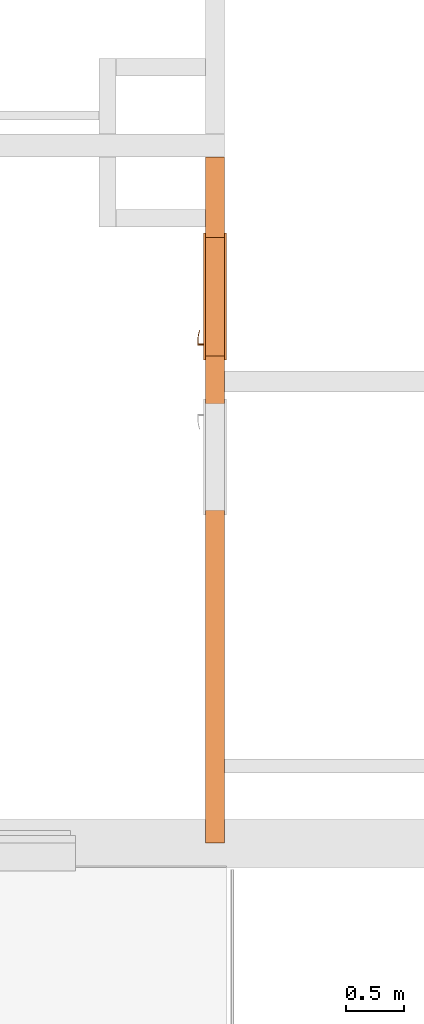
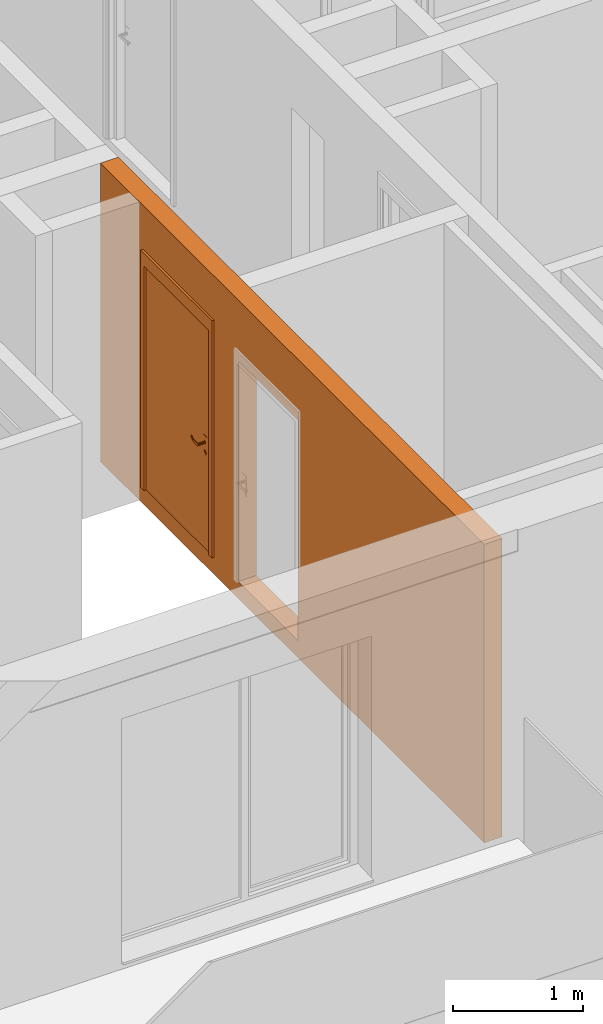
# One storey, part 8 of 64: 2 proxies, 2 openings.
"""IFC2X3 building model written with IfcOpenShell, lengths in millimetres."""

from ifc_helpers import new_model, entity, si_unit, converted_unit, derived_unit, money_unit, direction, frame, origin_with_axes, origin_2d_with_axis, place, context, subcontext, project, spatial, rectangle, extrude, open_shell, faceted_brep, surface_model, source, transform, mapped, material, type_object, element, fill, save


model = new_model("IFC2X3")

# Units and contexts
model_context = context("Model", 3, precision=0.01, world=origin_with_axes(), true_north=direction((0.34421633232, 0.938890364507)))
body_context = subcontext(model_context, "Body", "Model", "MODEL_VIEW")
ifc_project = project(units=[si_unit("LENGTHUNIT", "METRE", prefix="MILLI"), si_unit("AREAUNIT", "SQUARE_METRE"), si_unit("VOLUMEUNIT", "CUBIC_METRE"), converted_unit("PLANEANGLEUNIT", "DEGREE", entity("IfcPlaneAngleMeasure", 0.0174532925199), si_unit("PLANEANGLEUNIT", "RADIAN"), dimensions=[0, 0, 0, 0, 0, 0, 0]), si_unit("SOLIDANGLEUNIT", "STERADIAN"), money_unit("USD"), converted_unit("TIMEUNIT", "Year", entity("IfcTimeMeasure", 31556926.0), si_unit("TIMEUNIT", "SECOND"), dimensions=[0, 0, 1, 0, 0, 0, 0]), si_unit("MASSUNIT", "GRAM", prefix="KILO"), si_unit("THERMODYNAMICTEMPERATUREUNIT", "DEGREE_CELSIUS"), si_unit("LUMINOUSINTENSITYUNIT", "LUMEN"), si_unit("ENERGYUNIT", "JOULE", prefix="MEGA"), derived_unit("THERMALCONDUCTANCEUNIT", [(si_unit("POWERUNIT", "WATT"), 1), (si_unit("LENGTHUNIT", "METRE"), -1), (si_unit("THERMODYNAMICTEMPERATUREUNIT", "KELVIN"), -1)]), derived_unit("SPECIFICHEATCAPACITYUNIT", [(si_unit("ENERGYUNIT", "JOULE"), 1), (si_unit("MASSUNIT", "GRAM", prefix="KILO"), -1), (si_unit("THERMODYNAMICTEMPERATUREUNIT", "KELVIN"), -1)]), derived_unit("MASSDENSITYUNIT", [(si_unit("MASSUNIT", "GRAM", prefix="KILO"), 1), (si_unit("VOLUMEUNIT", "CUBIC_METRE"), -1)])], contexts=[model_context])

# Site, building, storey
site_placement = place(None, origin_with_axes())
site = spatial("IfcSite", under=ifc_project, at=site_placement, Name="USTRONIE MORSKIE", CompositionType="ELEMENT")
building_placement = place(site_placement, origin_with_axes())
building = spatial("IfcBuilding", under=site, at=building_placement, Name="Budynek", CompositionType="ELEMENT")
storey_placement = place(building_placement, frame((0.0, 0.0, 7000.0), z_axis=(0.0, 0.0, 1.0), x_axis=(1.0, 0.0, 0.0)))
storey = spatial("IfcBuildingStorey", under=building, at=storey_placement, Name="PIĘTRO 2", CompositionType="ELEMENT", Elevation=7000.0)

# Proxies, openings
ifc_material = material(Name="Beton konstrukcyjny B25")
building_element_proxy_type_1 = type_object("IfcBuildingElementProxyType", Name="Beton konstrukcyjny B25 160", PredefinedType="NOTDEFINED")
proxy_1_placement = place(storey_placement, frame((357517.920919, 715101.199036, -160.0), z_axis=(0.0, 0.0, 1.0), x_axis=(0.0, -1.0, 0.0)))
proxy_1 = element("IfcBuildingElementProxy", 1, at=proxy_1_placement, inside=storey, type_object=building_element_proxy_type_1, material=ifc_material, Name="SW-01", context=body_context, shape_type="Brep", body=[
    faceted_brep([(6000.0, 80.0, 0.0), (100.0, 80.0, 0.0), (100.0, 80.0, 2800.0), (6000.0, 80.0, 2800.0), (6000.0, -80.0, 0.0), (100.0, -80.0, 0.0), (100.0, -80.0, 2800.0), (6000.0, -80.0, 2800.0)], [[[0, 1, 2, 3]], [[4, 5, 1, 0]], [[5, 6, 2, 1]], [[3, 2, 6, 7]], [[4, 0, 3, 7]], [[7, 6, 5, 4]]]),
])
opening_1_placement = place(proxy_1_placement, frame((1300.00000044, 0.0, 160.0), z_axis=(0.0, 0.0, 1.0), x_axis=(1.0, 0.0, 0.0)))
opening_1 = element("IfcOpeningElement", 2, at=opening_1_placement, cuts=proxy_1, Name="Dw.1", context=body_context, shape_type="SweptSolid", body=[
    extrude(rectangle(XDim=1020.0, YDim=2120.0, at=origin_2d_with_axis()), frame((0.0, 160.0, 1060.0), z_axis=(0.0, -1.0, 0.0), x_axis=(-1.0, 0.0, 0.0)), (0.0, 0.0, 1.0), 480.0),
    extrude(rectangle(XDim=1094.0, YDim=2227.0, at=origin_2d_with_axis()), frame((0.0, 80.0, 1113.5), z_axis=(0.0, -1.0, 0.0), x_axis=(-1.0, 0.0, 0.0)), (0.0, 0.0, -1.0), 160.0),
    extrude(rectangle(XDim=1094.0, YDim=2227.0, at=origin_2d_with_axis()), frame((0.0, -80.0, 1113.5), z_axis=(0.0, 1.0, 0.0), x_axis=(-1.0, 0.0, 0.0)), (0.0, 0.0, -1.0), 160.0),
])
opening_2_placement = place(proxy_1_placement, frame((2680.00000044, 0.0, 160.0), z_axis=(0.0, 0.0, 1.0), x_axis=(1.0, 0.0, 0.0)))
element("IfcOpeningElement", 3, at=opening_2_placement, cuts=proxy_1, Name="Dw.4", context=body_context, shape_type="SweptSolid", body=[
    extrude(rectangle(XDim=920.0, YDim=2070.0, at=origin_2d_with_axis()), frame((0.0, 160.0, 1035.0), z_axis=(0.0, 1.0, 0.0), x_axis=(1.0, 0.0, 0.0)), (0.0, 0.0, -1.0), 480.0),
    extrude(rectangle(XDim=994.0, YDim=2177.0, at=origin_2d_with_axis()), frame((0.0, 80.0, 1088.5), z_axis=(0.0, 1.0, 0.0), x_axis=(1.0, 0.0, 0.0)), (0.0, 0.0, 1.0), 160.0),
    extrude(rectangle(XDim=994.0, YDim=2177.0, at=origin_2d_with_axis()), frame((0.0, -80.0, 1088.5), z_axis=(0.0, -1.0, 0.0), x_axis=(1.0, 0.0, 0.0)), (0.0, 0.0, 1.0), 160.0),
])
building_element_proxy_type_2 = type_object("IfcBuildingElementProxyType", Name="Drzwi 23", PredefinedType="NOTDEFINED")
shared_shape = source(origin_with_axes(), body_context, "Body", "SurfaceModel", [
    faceted_brep([(-510.0, -115.0, 0.0), (-485.0, -115.0, 0.0), (-485.0, -160.0, 0.0), (-510.0, -160.0, 0.0), (-510.0, -115.0, 2120.0), (-485.0, -115.0, 2095.0), (-485.0, -160.0, 2095.0), (-510.0, -160.0, 2120.0)], [[[0, 1, 2, 3]], [[0, 4, 5, 1]], [[1, 5, 6, 2]], [[3, 2, 6, 7]], [[4, 0, 3, 7]], [[5, 4, 7, 6]]]),
    faceted_brep([(510.0, -115.0, 2120.0), (485.0, -115.0, 2095.0), (485.0, -160.0, 2095.0), (510.0, -160.0, 2120.0), (510.0, -115.0, 0.0), (485.0, -115.0, 0.0), (485.0, -160.0, 0.0), (510.0, -160.0, 0.0)], [[[0, 1, 2, 3]], [[0, 4, 5, 1]], [[1, 5, 6, 2]], [[3, 2, 6, 7]], [[4, 0, 3, 7]], [[5, 4, 7, 6]]]),
    faceted_brep([(-485.0, -115.0, 2095.0), (485.0, -115.0, 2095.0), (485.0, -160.0, 2095.0), (-485.0, -160.0, 2095.0), (-510.0, -115.0, 2120.0), (510.0, -115.0, 2120.0), (510.0, -160.0, 2120.0), (-510.0, -160.0, 2120.0)], [[[0, 1, 2, 3]], [[0, 4, 5, 1]], [[1, 5, 6, 2]], [[3, 2, 6, 7]], [[4, 0, 3, 7]], [[5, 4, 7, 6]]]),
    faceted_brep([(-547.0, -179.0, 0.0), (-547.0, -160.0, 0.0), (-497.0, -160.0, 0.0), (-497.0, -179.0, 0.0), (-547.0, -179.0, 2227.0), (-547.0, -160.0, 2227.0), (-497.0, -160.0, 2107.0), (-497.0, -179.0, 2107.0)], [[[0, 1, 2, 3]], [[4, 5, 1, 0]], [[1, 5, 6, 2]], [[3, 2, 6, 7]], [[0, 3, 7, 4]], [[7, 6, 5, 4]]]),
    faceted_brep([(547.0, -179.0, 2227.0), (547.0, -160.0, 2227.0), (497.0, -160.0, 2107.0), (497.0, -179.0, 2107.0), (547.0, -179.0, 0.0), (547.0, -160.0, 0.0), (497.0, -160.0, 0.0), (497.0, -179.0, 0.0)], [[[0, 1, 2, 3]], [[4, 5, 1, 0]], [[1, 5, 6, 2]], [[3, 2, 6, 7]], [[0, 3, 7, 4]], [[7, 6, 5, 4]]]),
    faceted_brep([(-547.0, -179.0, 2227.0), (-547.0, -160.0, 2227.0), (-497.0, -160.0, 2107.0), (-497.0, -179.0, 2107.0), (547.0, -179.0, 2227.0), (547.0, -160.0, 2227.0), (497.0, -160.0, 2107.0), (497.0, -179.0, 2107.0)], [[[0, 1, 2, 3]], [[4, 5, 1, 0]], [[1, 5, 6, 2]], [[3, 2, 6, 7]], [[0, 3, 7, 4]], [[7, 6, 5, 4]]]),
    faceted_brep([(-547.0, 19.0, 0.0), (-497.0, 19.0, 0.0), (-497.0, 0.0, 0.0), (-547.0, 0.0, 0.0), (-547.0, 19.0, 2227.0), (-497.0, 19.0, 2107.0), (-497.0, 0.0, 2107.0), (-547.0, 0.0, 2227.0)], [[[0, 1, 2, 3]], [[0, 4, 5, 1]], [[1, 5, 6, 2]], [[3, 2, 6, 7]], [[4, 0, 3, 7]], [[5, 4, 7, 6]]]),
    faceted_brep([(547.0, 19.0, 2227.0), (497.0, 19.0, 2107.0), (497.0, 0.0, 2107.0), (547.0, 0.0, 2227.0), (547.0, 19.0, 0.0), (497.0, 19.0, 0.0), (497.0, 0.0, 0.0), (547.0, 0.0, 0.0)], [[[0, 1, 2, 3]], [[0, 4, 5, 1]], [[1, 5, 6, 2]], [[3, 2, 6, 7]], [[4, 0, 3, 7]], [[5, 4, 7, 6]]]),
    faceted_brep([(-547.0, 19.0, 2227.0), (-497.0, 19.0, 2107.0), (-497.0, 0.0, 2107.0), (-547.0, 0.0, 2227.0), (547.0, 19.0, 2227.0), (497.0, 19.0, 2107.0), (497.0, 0.0, 2107.0), (547.0, 0.0, 2227.0)], [[[0, 1, 2, 3]], [[0, 4, 5, 1]], [[1, 5, 6, 2]], [[3, 2, 6, 7]], [[4, 0, 3, 7]], [[5, 4, 7, 6]]]),
    faceted_brep([(-450.0, -40.0, 0.0), (-450.0, -40.0, 2050.0), (-450.0, -115.0, 2050.0), (-450.0, -115.0, 0.0), (-462.0, -40.0, 2050.0), (-462.0, -40.0, 0.0), (-462.0, 0.0, 2050.0), (-510.0, 0.0, 2050.0), (-510.0, -115.0, 2050.0), (-510.0, -115.0, 0.0), (-510.0, 0.0, 0.0), (-462.0, 0.0, 0.0)], [[[0, 1, 2, 3]], [[4, 1, 0, 5]], [[4, 6, 7, 8, 2, 1]], [[3, 2, 8, 9]], [[5, 0, 3, 9, 10, 11]], [[6, 4, 5, 11]], [[6, 11, 10, 7]], [[10, 9, 8, 7]]]),
    faceted_brep([(462.0, -40.0, 2050.0), (450.0, -40.0, 2050.0), (450.0, -115.0, 2050.0), (510.0, -115.0, 2050.0), (510.0, 0.0, 2050.0), (462.0, 0.0, 2050.0), (462.0, -40.0, 0.0), (450.0, -40.0, 0.0), (450.0, -115.0, 0.0), (510.0, -115.0, 0.0), (510.0, 0.0, 0.0), (462.0, 0.0, 0.0)], [[[0, 1, 2, 3, 4, 5]], [[1, 0, 6, 7]], [[1, 7, 8, 2]], [[3, 2, 8, 9]], [[4, 3, 9, 10]], [[11, 5, 4, 10]], [[0, 5, 11, 6]], [[6, 11, 10, 9, 8, 7]]]),
    faceted_brep([(-462.0, 0.0, 2062.0), (-462.0, 0.0, 2050.0), (-510.0, 0.0, 2050.0), (-510.0, 0.0, 2120.0), (510.0, 0.0, 2120.0), (510.0, 0.0, 2050.0), (462.0, 0.0, 2050.0), (462.0, 0.0, 2062.0), (-462.0, -40.0, 2062.0), (-462.0, -40.0, 2050.0), (-450.0, -40.0, 2050.0), (-450.0, -115.0, 2050.0), (-510.0, -115.0, 2050.0), (-510.0, -115.0, 2120.0), (510.0, -115.0, 2120.0), (510.0, -115.0, 2050.0), (462.0, -40.0, 2050.0), (450.0, -115.0, 2050.0), (450.0, -40.0, 2050.0), (462.0, -40.0, 2062.0)], [[[0, 1, 2, 3, 4, 5, 6, 7]], [[1, 0, 8, 9]], [[9, 10, 11, 12, 2, 1]], [[2, 12, 13, 3]], [[3, 13, 14, 4]], [[4, 14, 15, 5]], [[16, 6, 5, 15, 17, 18]], [[7, 6, 16, 19]], [[0, 7, 19, 8]], [[16, 18, 10, 9, 8, 19]], [[10, 18, 17, 11]], [[17, 15, 14, 13, 12, 11]]]),
    faceted_brep([(-440.5, -40.0, 1060.0), (-440.5, -43.0, 1060.0), (-383.5, -43.0, 1060.0), (-383.5, -40.0, 1060.0), (-440.5, -40.0, 870.0), (-440.5, -43.0, 870.0), (-383.5, -43.0, 870.0), (-383.5, -40.0, 870.0)], [[[0, 1, 2, 3]], [[4, 5, 1, 0]], [[1, 5, 6, 2]], [[3, 2, 6, 7]], [[0, 3, 7, 4]], [[7, 6, 5, 4]]]),
    faceted_brep([(-412.0, -104.0, 990.0), (-412.0, -111.0, 990.0), (-417.0, -111.0, 991.339745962), (-417.0, -104.0, 991.339745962), (-387.0, -104.0, 990.0), (-387.0, -111.0, 990.0), (-387.0, -111.0, 1010.0), (-412.0, -111.0, 1010.0), (-417.0, -111.0, 1008.66025404), (-420.660254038, -111.0, 1005.0), (-422.0, -111.0, 1000.0), (-420.660254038, -111.0, 995.0), (-420.660254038, -104.0, 995.0), (-422.0, -104.0, 1000.0), (-420.660254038, -104.0, 1005.0), (-417.0, -104.0, 1008.66025404), (-412.0, -104.0, 1010.0), (-387.0, -104.0, 1010.0)], [[[0, 1, 2, 3]], [[4, 5, 1, 0]], [[1, 5, 6, 7, 8, 9, 10, 11, 2]], [[3, 2, 11, 12]], [[0, 3, 12, 13, 14, 15, 16, 17, 4]], [[17, 6, 5, 4]], [[16, 7, 6, 17]], [[15, 8, 7, 16]], [[14, 9, 8, 15]], [[13, 10, 9, 14]], [[12, 11, 10, 13]]]),
    surface_model("IfcShellBasedSurfaceModel", [(-387.0, -104.0, 1010.0), (-373.596090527, -111.0, 1009.60730092), (-373.901717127, -104.0, 1009.60730092), (-387.0, -111.0, 1010.0), (-346.890283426, -108.663544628, 1008.82190275), (-373.901717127, -104.0, 990.392699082), (-387.0, -104.0, 990.0), (-387.0, -111.0, 990.0), (-373.596090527, -111.0, 990.392699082), (-346.890283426, -108.663544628, 991.178097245), (-347.804837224, -101.716818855, 1008.82190275), (-347.804837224, -101.716818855, 991.178097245), (-320.489735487, -104.008415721, 991.963495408), (-320.489735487, -104.008415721, 1008.03650459), (-322.006256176, -97.1678329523, 1008.03650459), (-322.006256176, -97.1678329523, 991.963495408), (-294.59537082, -97.0700416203, 992.748893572), (-294.59537082, -97.0700416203, 1007.25110643), (-296.702316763, -90.3876628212, 1007.25110643), (-296.702316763, -90.3876628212, 992.748893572), (-286.538795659, -94.1376880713, 993.0), (-286.538795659, -94.1376880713, 1007.0), (-288.829442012, -87.5221707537, 1007.0), (-288.829442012, -87.5221707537, 993.0)], [open_shell([[[0, 1, 2]], [[0, 3, 1]], [[2, 1, 4]], [[0, 2, 5, 6]], [[3, 7, 8, 1]], [[1, 8, 9, 4]], [[2, 4, 10]], [[2, 10, 11, 5]], [[5, 7, 6]], [[5, 8, 7]], [[11, 9, 8]], [[4, 9, 12, 13]], [[10, 4, 13]], [[10, 14, 15, 11]], [[11, 8, 5]], [[15, 9, 11]], [[15, 12, 9]], [[13, 12, 16, 17]], [[10, 13, 14]], [[14, 18, 19, 15]], [[19, 12, 15]], [[19, 16, 12]], [[17, 16, 20, 21]], [[14, 13, 17]], [[14, 17, 18]], [[18, 22, 23, 19]], [[23, 16, 19]], [[23, 20, 16]], [[22, 21, 20, 23]], [[18, 17, 21]], [[18, 21, 22]]])]),
    faceted_brep([(-401.607695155, -53.0, 994.0), (-400.741669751, -43.0, 993.5), (-399.0, -43.0, 1000.0), (-400.0, -53.0, 1000.0), (-406.0, -53.0, 989.607695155), (-405.5, -43.0, 988.741669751), (-412.0, -43.0, 987.0), (-418.5, -43.0, 988.741669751), (-423.258330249, -43.0, 993.5), (-425.0, -43.0, 1000.0), (-423.258330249, -43.0, 1006.5), (-418.5, -43.0, 1011.25833025), (-412.0, -43.0, 1013.0), (-405.5, -43.0, 1011.25833025), (-400.741669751, -43.0, 1006.5), (-401.607695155, -53.0, 1006.0), (-406.0, -53.0, 1010.39230485), (-412.0, -53.0, 1012.0), (-418.0, -53.0, 1010.39230485), (-422.392304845, -53.0, 1006.0), (-424.0, -53.0, 1000.0), (-422.392304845, -53.0, 994.0), (-418.0, -53.0, 989.607695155), (-412.0, -53.0, 988.0)], [[[0, 1, 2, 3]], [[4, 5, 1, 0]], [[2, 1, 5, 6, 7, 8, 9, 10, 11, 12, 13, 14]], [[3, 2, 14, 15]], [[3, 15, 16, 17, 18, 19, 20, 21, 22, 23, 4, 0]], [[23, 6, 5, 4]], [[22, 7, 6, 23]], [[21, 8, 7, 22]], [[20, 9, 8, 21]], [[19, 10, 9, 20]], [[18, 11, 10, 19]], [[17, 12, 11, 18]], [[16, 13, 12, 17]], [[15, 14, 13, 16]]]),
    faceted_brep([(-394.679491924, -47.0, 895.0), (-392.947441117, -43.0, 894.0), (-390.0, -43.0, 905.0), (-392.0, -47.0, 905.0), (-402.0, -47.0, 887.679491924), (-401.0, -43.0, 885.947441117), (-412.0, -43.0, 883.0), (-423.0, -43.0, 885.947441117), (-431.052558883, -43.0, 894.0), (-434.0, -43.0, 905.0), (-431.052558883, -43.0, 916.0), (-423.0, -43.0, 924.052558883), (-412.0, -43.0, 927.0), (-401.0, -43.0, 924.052558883), (-392.947441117, -43.0, 916.0), (-394.679491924, -47.0, 915.0), (-402.0, -47.0, 922.320508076), (-412.0, -47.0, 925.0), (-422.0, -47.0, 922.320508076), (-429.320508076, -47.0, 915.0), (-432.0, -47.0, 905.0), (-429.320508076, -47.0, 895.0), (-422.0, -47.0, 887.679491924), (-412.0, -47.0, 885.0)], [[[0, 1, 2, 3]], [[4, 5, 1, 0]], [[2, 1, 5, 6, 7, 8, 9, 10, 11, 12, 13, 14]], [[3, 2, 14, 15]], [[3, 15, 16, 17, 18, 19, 20, 21, 22, 23, 4, 0]], [[23, 6, 5, 4]], [[22, 7, 6, 23]], [[21, 8, 7, 22]], [[20, 9, 8, 21]], [[19, 10, 9, 20]], [[18, 11, 10, 19]], [[17, 12, 11, 18]], [[16, 13, 12, 17]], [[15, 14, 13, 16]]]),
    faceted_brep([(-407.050252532, -49.0, 909.050252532), (-406.343145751, -47.0, 908.343145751), (-404.0, -47.0, 914.0), (-405.0, -49.0, 914.0), (-412.0, -49.0, 907.0), (-412.0, -47.0, 906.0), (-417.656854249, -47.0, 908.343145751), (-420.0, -47.0, 914.0), (-417.656854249, -47.0, 919.656854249), (-412.0, -47.0, 922.0), (-406.343145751, -47.0, 919.656854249), (-407.050252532, -49.0, 918.949747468), (-412.0, -49.0, 921.0), (-416.949747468, -49.0, 918.949747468), (-419.0, -49.0, 914.0), (-416.949747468, -49.0, 909.050252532)], [[[0, 1, 2, 3]], [[4, 5, 1, 0]], [[2, 1, 5, 6, 7, 8, 9, 10]], [[3, 2, 10, 11]], [[3, 11, 12, 13, 14, 15, 4, 0]], [[15, 6, 5, 4]], [[14, 7, 6, 15]], [[13, 8, 7, 14]], [[12, 9, 8, 13]], [[11, 10, 9, 12]]]),
    faceted_brep([(-412.0, -53.0, 1010.0), (-412.0, -104.0, 1010.0), (-407.0, -104.0, 1008.66025404), (-407.0, -53.0, 1008.66025404), (-417.0, -53.0, 1008.66025404), (-417.0, -104.0, 1008.66025404), (-420.660254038, -104.0, 1005.0), (-422.0, -104.0, 1000.0), (-420.660254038, -104.0, 995.0), (-417.0, -104.0, 991.339745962), (-412.0, -104.0, 990.0), (-407.0, -104.0, 991.339745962), (-403.339745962, -104.0, 995.0), (-402.0, -104.0, 1000.0), (-403.339745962, -104.0, 1005.0), (-403.339745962, -53.0, 1005.0), (-402.0, -53.0, 1000.0), (-403.339745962, -53.0, 995.0), (-407.0, -53.0, 991.339745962), (-412.0, -53.0, 990.0), (-417.0, -53.0, 991.339745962), (-420.660254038, -53.0, 995.0), (-422.0, -53.0, 1000.0), (-420.660254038, -53.0, 1005.0)], [[[0, 1, 2, 3]], [[4, 5, 1, 0]], [[1, 5, 6, 7, 8, 9, 10, 11, 12, 13, 14, 2]], [[3, 2, 14, 15]], [[0, 3, 15, 16, 17, 18, 19, 20, 21, 22, 23, 4]], [[23, 6, 5, 4]], [[22, 7, 6, 23]], [[21, 8, 7, 22]], [[20, 9, 8, 21]], [[19, 10, 9, 20]], [[18, 11, 10, 19]], [[17, 12, 11, 18]], [[16, 13, 12, 17]], [[15, 14, 13, 16]]]),
    faceted_brep([(-440.5, 0.0, 1060.0), (-383.5, 0.0, 1060.0), (-383.5, 3.0, 1060.0), (-440.5, 3.0, 1060.0), (-440.5, 0.0, 870.0), (-383.5, 0.0, 870.0), (-383.5, 3.0, 870.0), (-440.5, 3.0, 870.0)], [[[0, 1, 2, 3]], [[0, 4, 5, 1]], [[1, 5, 6, 2]], [[3, 2, 6, 7]], [[4, 0, 3, 7]], [[5, 4, 7, 6]]]),
    faceted_brep([(-412.0, 64.0, 990.0), (-417.0, 64.0, 991.339745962), (-417.0, 71.0, 991.339745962), (-412.0, 71.0, 990.0), (-387.0, 64.0, 990.0), (-387.0, 64.0, 1010.0), (-412.0, 64.0, 1010.0), (-417.0, 64.0, 1008.66025404), (-420.660254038, 64.0, 1005.0), (-422.0, 64.0, 1000.0), (-420.660254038, 64.0, 995.0), (-420.660254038, 71.0, 995.0), (-422.0, 71.0, 1000.0), (-420.660254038, 71.0, 1005.0), (-417.0, 71.0, 1008.66025404), (-412.0, 71.0, 1010.0), (-387.0, 71.0, 1010.0), (-387.0, 71.0, 990.0)], [[[0, 1, 2, 3]], [[0, 4, 5, 6, 7, 8, 9, 10, 1]], [[1, 10, 11, 2]], [[3, 2, 11, 12, 13, 14, 15, 16, 17]], [[4, 0, 3, 17]], [[5, 4, 17, 16]], [[6, 5, 16, 15]], [[7, 6, 15, 14]], [[8, 7, 14, 13]], [[9, 8, 13, 12]], [[10, 9, 12, 11]]]),
    surface_model("IfcShellBasedSurfaceModel", [(-387.0, 64.0, 1010.0), (-373.901717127, 64.0, 1009.60730092), (-373.596090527, 71.0, 1009.60730092), (-387.0, 64.0, 990.0), (-373.901717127, 64.0, 990.392699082), (-346.890283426, 68.6635446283, 1008.82190275), (-387.0, 71.0, 1010.0), (-387.0, 71.0, 990.0), (-347.804837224, 61.716818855, 991.178097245), (-347.804837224, 61.716818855, 1008.82190275), (-346.890283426, 68.6635446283, 991.178097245), (-373.596090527, 71.0, 990.392699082), (-322.006256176, 57.1678329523, 991.963495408), (-322.006256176, 57.1678329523, 1008.03650459), (-320.489735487, 64.0084157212, 1008.03650459), (-320.489735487, 64.0084157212, 991.963495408), (-296.702316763, 50.3876628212, 992.748893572), (-296.702316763, 50.3876628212, 1007.25110643), (-294.59537082, 57.0700416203, 1007.25110643), (-294.59537082, 57.0700416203, 992.748893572), (-288.829442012, 47.5221707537, 993.0), (-288.829442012, 47.5221707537, 1007.0), (-286.538795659, 54.1376880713, 1007.0), (-286.538795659, 54.1376880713, 993.0)], [open_shell([[[0, 1, 2]], [[0, 3, 4, 1]], [[1, 5, 2]], [[0, 2, 6]], [[4, 3, 7]], [[1, 4, 8, 9]], [[1, 9, 5]], [[2, 5, 10, 11]], [[6, 2, 11, 7]], [[4, 7, 11]], [[8, 4, 11]], [[9, 8, 12, 13]], [[9, 14, 5]], [[5, 14, 15, 10]], [[8, 11, 10]], [[12, 8, 10]], [[13, 12, 16, 17]], [[9, 13, 14]], [[14, 18, 19, 15]], [[12, 10, 15]], [[16, 12, 15]], [[17, 16, 20, 21]], [[13, 17, 18]], [[13, 18, 14]], [[18, 22, 23, 19]], [[16, 15, 19]], [[20, 16, 19]], [[21, 20, 23, 22]], [[17, 21, 22]], [[17, 22, 18]], [[20, 19, 23]]])]),
    faceted_brep([(-401.607695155, 13.0, 994.0), (-400.0, 13.0, 1000.0), (-399.0, 3.0, 1000.0), (-400.741669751, 3.0, 993.5), (-406.0, 13.0, 989.607695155), (-412.0, 13.0, 988.0), (-418.0, 13.0, 989.607695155), (-422.392304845, 13.0, 994.0), (-424.0, 13.0, 1000.0), (-422.392304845, 13.0, 1006.0), (-418.0, 13.0, 1010.39230485), (-412.0, 13.0, 1012.0), (-406.0, 13.0, 1010.39230485), (-401.607695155, 13.0, 1006.0), (-400.741669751, 3.0, 1006.5), (-405.5, 3.0, 1011.25833025), (-412.0, 3.0, 1013.0), (-418.5, 3.0, 1011.25833025), (-423.258330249, 3.0, 1006.5), (-425.0, 3.0, 1000.0), (-423.258330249, 3.0, 993.5), (-418.5, 3.0, 988.741669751), (-412.0, 3.0, 987.0), (-405.5, 3.0, 988.741669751)], [[[0, 1, 2, 3]], [[1, 0, 4, 5, 6, 7, 8, 9, 10, 11, 12, 13]], [[1, 13, 14, 2]], [[2, 14, 15, 16, 17, 18, 19, 20, 21, 22, 23, 3]], [[4, 0, 3, 23]], [[5, 4, 23, 22]], [[6, 5, 22, 21]], [[7, 6, 21, 20]], [[8, 7, 20, 19]], [[9, 8, 19, 18]], [[10, 9, 18, 17]], [[11, 10, 17, 16]], [[12, 11, 16, 15]], [[13, 12, 15, 14]]]),
    faceted_brep([(-394.679491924, 7.0, 895.0), (-392.0, 7.0, 905.0), (-390.0, 3.0, 905.0), (-392.947441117, 3.0, 894.0), (-402.0, 7.0, 887.679491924), (-412.0, 7.0, 885.0), (-422.0, 7.0, 887.679491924), (-429.320508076, 7.0, 895.0), (-432.0, 7.0, 905.0), (-429.320508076, 7.0, 915.0), (-422.0, 7.0, 922.320508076), (-412.0, 7.0, 925.0), (-402.0, 7.0, 922.320508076), (-394.679491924, 7.0, 915.0), (-392.947441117, 3.0, 916.0), (-401.0, 3.0, 924.052558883), (-412.0, 3.0, 927.0), (-423.0, 3.0, 924.052558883), (-431.052558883, 3.0, 916.0), (-434.0, 3.0, 905.0), (-431.052558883, 3.0, 894.0), (-423.0, 3.0, 885.947441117), (-412.0, 3.0, 883.0), (-401.0, 3.0, 885.947441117)], [[[0, 1, 2, 3]], [[1, 0, 4, 5, 6, 7, 8, 9, 10, 11, 12, 13]], [[1, 13, 14, 2]], [[2, 14, 15, 16, 17, 18, 19, 20, 21, 22, 23, 3]], [[4, 0, 3, 23]], [[5, 4, 23, 22]], [[6, 5, 22, 21]], [[7, 6, 21, 20]], [[8, 7, 20, 19]], [[9, 8, 19, 18]], [[10, 9, 18, 17]], [[11, 10, 17, 16]], [[12, 11, 16, 15]], [[13, 12, 15, 14]]]),
    faceted_brep([(-407.050252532, 9.0, 909.050252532), (-405.0, 9.0, 914.0), (-404.0, 7.0, 914.0), (-406.343145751, 7.0, 908.343145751), (-412.0, 9.0, 907.0), (-416.949747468, 9.0, 909.050252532), (-419.0, 9.0, 914.0), (-416.949747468, 9.0, 918.949747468), (-412.0, 9.0, 921.0), (-407.050252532, 9.0, 918.949747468), (-406.343145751, 7.0, 919.656854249), (-412.0, 7.0, 922.0), (-417.656854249, 7.0, 919.656854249), (-420.0, 7.0, 914.0), (-417.656854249, 7.0, 908.343145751), (-412.0, 7.0, 906.0)], [[[0, 1, 2, 3]], [[1, 0, 4, 5, 6, 7, 8, 9]], [[1, 9, 10, 2]], [[2, 10, 11, 12, 13, 14, 15, 3]], [[4, 0, 3, 15]], [[5, 4, 15, 14]], [[6, 5, 14, 13]], [[7, 6, 13, 12]], [[8, 7, 12, 11]], [[9, 8, 11, 10]]]),
    faceted_brep([(-412.0, 13.0, 1010.0), (-407.0, 13.0, 1008.66025404), (-407.0, 64.0, 1008.66025404), (-412.0, 64.0, 1010.0), (-417.0, 13.0, 1008.66025404), (-420.660254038, 13.0, 1005.0), (-422.0, 13.0, 1000.0), (-420.660254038, 13.0, 995.0), (-417.0, 13.0, 991.339745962), (-412.0, 13.0, 990.0), (-407.0, 13.0, 991.339745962), (-403.339745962, 13.0, 995.0), (-402.0, 13.0, 1000.0), (-403.339745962, 13.0, 1005.0), (-403.339745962, 64.0, 1005.0), (-402.0, 64.0, 1000.0), (-403.339745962, 64.0, 995.0), (-407.0, 64.0, 991.339745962), (-412.0, 64.0, 990.0), (-417.0, 64.0, 991.339745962), (-420.660254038, 64.0, 995.0), (-422.0, 64.0, 1000.0), (-420.660254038, 64.0, 1005.0), (-417.0, 64.0, 1008.66025404)], [[[0, 1, 2, 3]], [[0, 4, 5, 6, 7, 8, 9, 10, 11, 12, 13, 1]], [[1, 13, 14, 2]], [[3, 2, 14, 15, 16, 17, 18, 19, 20, 21, 22, 23]], [[4, 0, 3, 23]], [[5, 4, 23, 22]], [[6, 5, 22, 21]], [[7, 6, 21, 20]], [[8, 7, 20, 19]], [[9, 8, 19, 18]], [[10, 9, 18, 17]], [[11, 10, 17, 16]], [[12, 11, 16, 15]], [[13, 12, 15, 14]]]),
    faceted_brep([(462.0, 0.0, 0.0), (462.0, -40.0, 0.0), (-462.0, -40.0, 0.0), (-462.0, 0.0, 0.0), (462.0, 0.0, 2062.0), (462.0, -40.0, 2062.0), (-462.0, -40.0, 2062.0), (-462.0, 0.0, 2062.0)], [[[0, 1, 2, 3]], [[4, 5, 1, 0]], [[1, 5, 6, 2]], [[3, 2, 6, 7]], [[0, 3, 7, 4]], [[7, 6, 5, 4]]]),
])
proxy_2_placement = place(opening_1_placement, frame((450.0, 0.0, 0.0), z_axis=(0.0, 0.0, 1.0), x_axis=(-1.0, 0.0, 0.0)))
proxy_2 = element("IfcBuildingElementProxy", 4, at=proxy_2_placement, inside=storey, type_object=building_element_proxy_type_2, Name="Dw.1", context=body_context, shape_type="MappedRepresentation", body=[
    mapped(shared_shape, transform((450.0, 80.0, 0.0))),
])
fill(opening_1, proxy_2)

save(model, "model.ifc")
